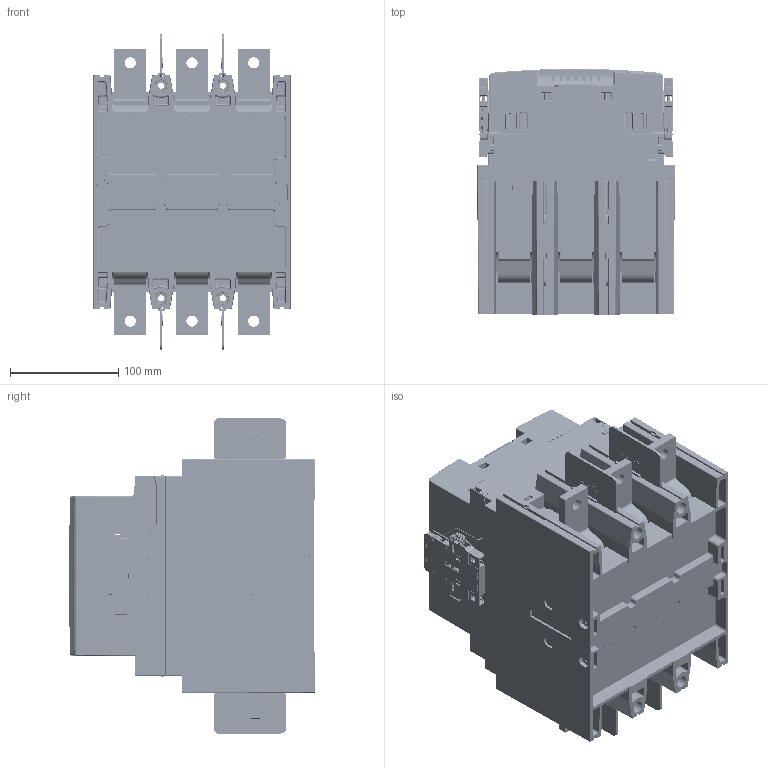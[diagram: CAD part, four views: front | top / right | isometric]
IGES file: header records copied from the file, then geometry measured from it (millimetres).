
Start section: SolidWorks IGES file using analytic representation for surfaces
Global section: file name: Q:\GROUPS\BR_SC_JGS_WA_TECNICO\ENG\Usuarios\Rodrigob\conversão\contatores\Produto\CWM560\CWM560.IGS; native system: SolidWorks 2016; preprocessor: SolidWorks 2016; author: rodrigob; date: 180220.160223; units: millimetre
Bounding box: 182.08 x 227.1 x 290.99 mm (x, y, z)
Surface area: 643567.5 mm2 (no closed solid volume)
Topology: 0 solids, 0 shells, 6194 faces, 50293 edges, 50227 vertices
Faces by surface type: bspline 4453, revolution 1741
